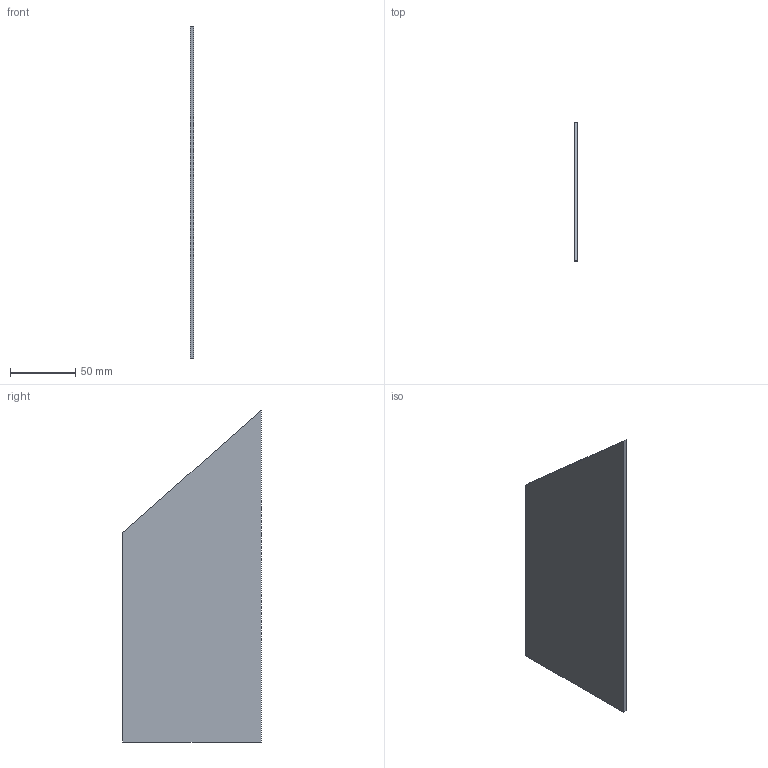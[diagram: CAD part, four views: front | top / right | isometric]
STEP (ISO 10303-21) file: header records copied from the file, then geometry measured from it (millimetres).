
FILE_DESCRIPTION(/* description */ (''),/* implementation_level */ '2;1');
FILE_NAME(/* name */ 'Winglet v7.step',/* time_stamp */ '2023-09-02T21:59:43+03:00',/* author */ (''),/* organization */ (''),/* preprocessor_version */ 'ST-DEVELOPER v20',/* originating_system */ 'Autodesk Translation Framework v12.9.0.99',/* authorisation */ '');
FILE_SCHEMA (('AUTOMOTIVE_DESIGN { 1 0 10303 214 3 1 1 }'));
Length unit declared in the file: millimetre
Products named in the file (1): Winglet
Bounding box: 3 x 106 x 254 mm (x, y, z)
Volume: 65826 mm3; surface area: 45869 mm2
Topology: 1 solids, 1 shells, 6 faces, 12 edges, 8 vertices
Faces by surface type: plane 6
Entity records: 189 total; most frequent: CARTESIAN_POINT 27, DIRECTION 26, ORIENTED_EDGE 24, LINE 12, VECTOR 12, EDGE_CURVE 12, VERTEX_POINT 8, AXIS2_PLACEMENT_3D 7
